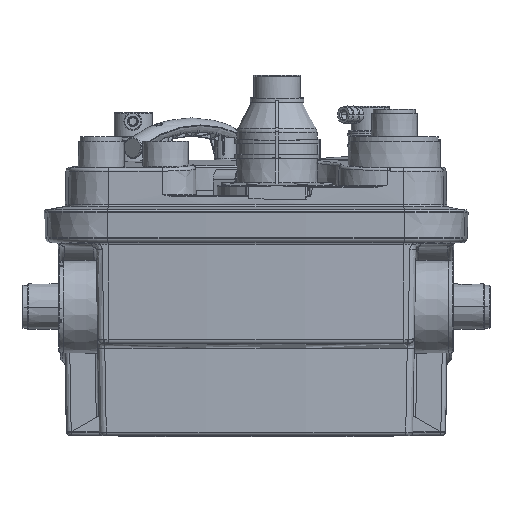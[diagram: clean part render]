
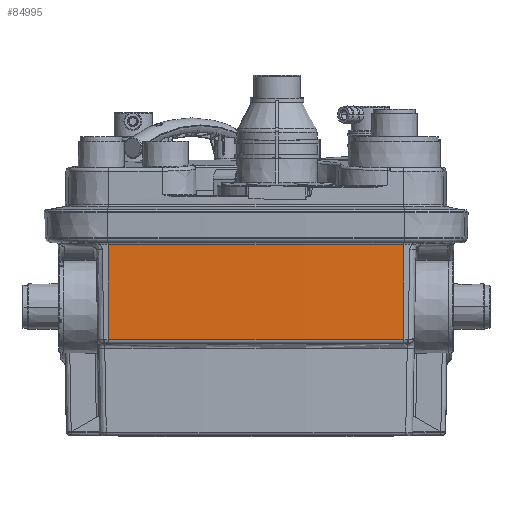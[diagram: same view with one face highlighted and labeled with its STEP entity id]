
A CAD part, front view. The second image highlights one B-rep face of the part: STEP entity #84995.
In plain terms, the highlighted conical face has half-angle 1 degrees and reference radius 3000 mm.
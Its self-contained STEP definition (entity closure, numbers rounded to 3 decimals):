
#357 = FACE_OUTER_BOUND ( 'NONE', #122785, .T. ) ;
#12061 = VECTOR ( 'NONE', #87327, 1000. ) ;
#12403 = DIRECTION ( 'NONE',  ( 1., 0., 0. ) ) ;
#12766 = CARTESIAN_POINT ( 'NONE',  ( 18.348, 2838.333, 121.637 ) ) ;
#13088 = AXIS2_PLACEMENT_3D ( 'NONE', #12766, #102314, #25578 ) ;
#13535 = VECTOR ( 'NONE', #75714, 1000. ) ;
#25578 = DIRECTION ( 'NONE',  ( 1., 0., 0. ) ) ;
#44985 = DIRECTION ( 'NONE',  ( 0., 0., 1. ) ) ;
#52026 = AXIS2_PLACEMENT_3D ( 'NONE', #121582, #44985, #134420 ) ;
#55901 = CARTESIAN_POINT ( 'NONE',  ( 178.627, -159.207, 18.668 ) ) ;
#61138 = ORIENTED_EDGE ( 'NONE', *, *, #150216, .F. ) ;
#75714 = DIRECTION ( 'NONE',  ( -0.001, 0.017, -1. ) ) ;
#80167 = CARTESIAN_POINT ( 'NONE',  ( 178.723, -161.002, 121.637 ) ) ;
#84995 = ADVANCED_FACE ( 'NONE', ( #357 ), #116476, .T. ) ;
#86010 = CARTESIAN_POINT ( 'NONE',  ( -142.027, -161.002, 121.637 ) ) ;
#86997 = ORIENTED_EDGE ( 'NONE', *, *, #148052, .T. ) ;
#87327 = DIRECTION ( 'NONE',  ( 0.001, 0.017, -1. ) ) ;
#87452 = DIRECTION ( 'NONE',  ( 0., 0., 1. ) ) ;
#88565 = CARTESIAN_POINT ( 'NONE',  ( 18.348, 2838.333, -85.726 ) ) ;
#102314 = DIRECTION ( 'NONE',  ( 0., 0., -1. ) ) ;
#103277 = CIRCLE ( 'NONE', #13088, 3003.62 ) ;
#105439 = CIRCLE ( 'NONE', #52026, 3001.822 ) ;
#105839 = ORIENTED_EDGE ( 'NONE', *, *, #165263, .T. ) ;
#109422 = EDGE_CURVE ( 'NONE', #142158, #128555, #105439, .T. ) ;
#110186 = LINE ( 'NONE', #149896, #12061 ) ;
#111004 = CARTESIAN_POINT ( 'NONE',  ( -141.931, -159.207, 18.668 ) ) ;
#111636 = LINE ( 'NONE', #165639, #13535 ) ;
#116476 = CONICAL_SURFACE ( 'NONE', #131098, 3000., 0.017 ) ;
#118070 = ORIENTED_EDGE ( 'NONE', *, *, #109422, .T. ) ;
#121582 = CARTESIAN_POINT ( 'NONE',  ( 18.348, 2838.333, 18.668 ) ) ;
#122785 = EDGE_LOOP ( 'NONE', ( #61138, #105839, #86997, #118070 ) ) ;
#127004 = VERTEX_POINT ( 'NONE', #86010 ) ;
#128555 = VERTEX_POINT ( 'NONE', #55901 ) ;
#131098 = AXIS2_PLACEMENT_3D ( 'NONE', #88565, #87452, #12403 ) ;
#133651 = VERTEX_POINT ( 'NONE', #80167 ) ;
#134420 = DIRECTION ( 'NONE',  ( -1., 0., 0. ) ) ;
#142158 = VERTEX_POINT ( 'NONE', #111004 ) ;
#148052 = EDGE_CURVE ( 'NONE', #127004, #142158, #110186, .T. ) ;
#149896 = CARTESIAN_POINT ( 'NONE',  ( -141.833, -157.387, -85.726 ) ) ;
#150216 = EDGE_CURVE ( 'NONE', #133651, #128555, #111636, .T. ) ;
#165263 = EDGE_CURVE ( 'NONE', #133651, #127004, #103277, .T. ) ;
#165639 = CARTESIAN_POINT ( 'NONE',  ( 178.529, -157.387, -85.726 ) ) ;
